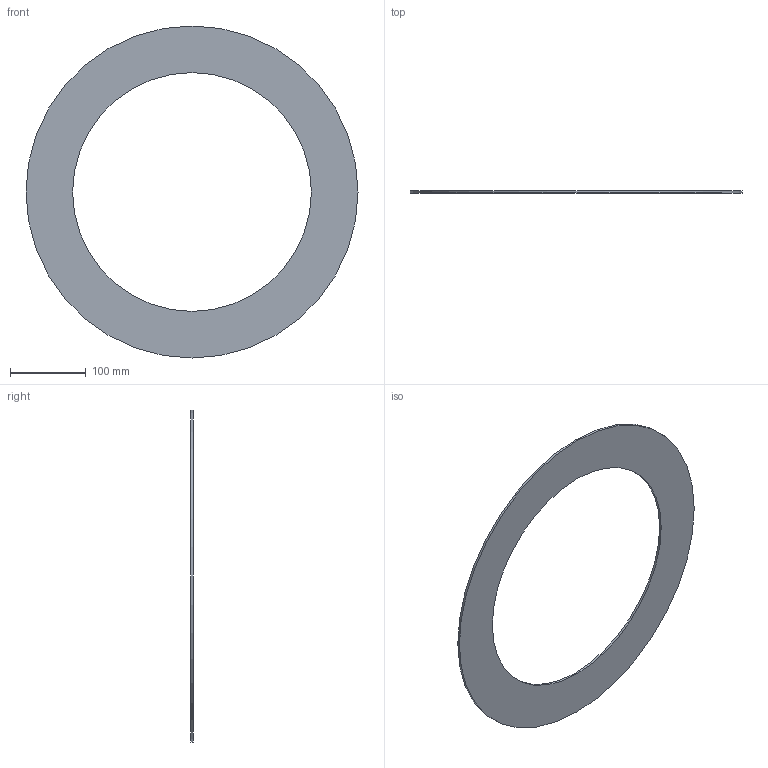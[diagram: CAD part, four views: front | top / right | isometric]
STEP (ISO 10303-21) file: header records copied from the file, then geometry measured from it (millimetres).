
FILE_DESCRIPTION(/* description */ ('Unknown'),/* implementation_level */ '2;1');
FILE_NAME(/* name */ 'GUA.355B',/* time_stamp */ '2021-04-01T12:53:32+02:00',/* author */ ('Unknown'),/* organization */ ('Unknown'),/* preprocessor_version */ 'ST-DEVELOPER v16.7',/* originating_system */ 'Solid Edge',/* authorisation */ 'Unknown');
FILE_SCHEMA (('AUTOMOTIVE_DESIGN {1 0 10303 214 3 1 1}'));
Length unit declared in the file: millimetre
Products named in the file (1): GUA.355B
Bounding box: 438 x 3 x 438 mm (x, y, z)
Volume: 218228.4 mm3; surface area: 152582.4 mm2
Topology: 1 solids, 1 shells, 4 faces, 6 edges, 4 vertices
Faces by surface type: cylinder 2, plane 2
Full cylindrical faces by diameter (mm): 315 x1, 438 x1
Entity records: 118 total; most frequent: DIRECTION 18, CARTESIAN_POINT 13, AXIS2_PLACEMENT_3D 9, ORIENTED_EDGE 8, EDGE_LOOP 8, FACE_BOUND 8, EDGE_CURVE 4, VERTEX_POINT 4
